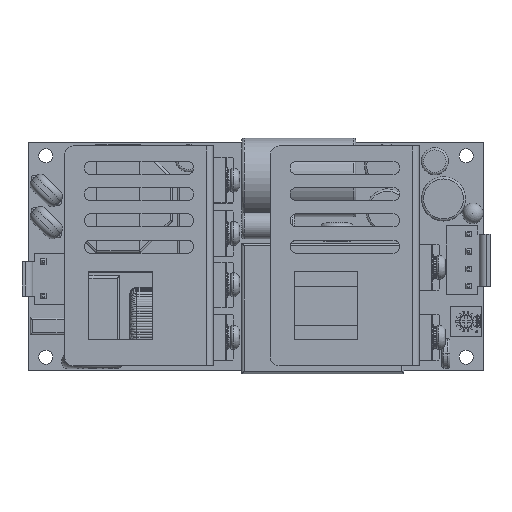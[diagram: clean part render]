
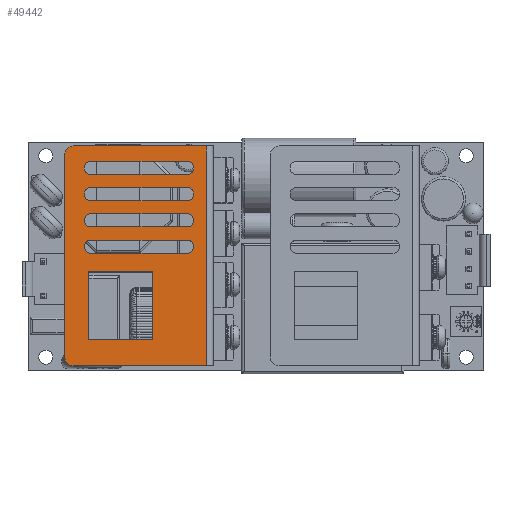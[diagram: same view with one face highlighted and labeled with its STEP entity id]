
A CAD part, top view. The second image highlights one B-rep face of the part: STEP entity #49442.
In plain terms, the highlighted planar face has unit normal (0, 0, 1) as drawn and (0, 1, 0) by its records, which use the part's own axes.
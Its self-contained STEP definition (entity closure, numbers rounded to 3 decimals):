
#2259=LINE($,#78601,#4504);
#2260=LINE($,#78605,#4505);
#2261=LINE($,#78609,#4506);
#2262=LINE($,#78613,#4507);
#2263=LINE($,#78617,#4508);
#2264=LINE($,#78621,#4509);
#2265=LINE($,#78625,#4510);
#2266=LINE($,#78629,#4511);
#2267=LINE($,#78633,#4512);
#2268=LINE($,#78635,#4513);
#2269=LINE($,#78637,#4514);
#2270=LINE($,#78638,#4515);
#2271=LINE($,#78640,#4516);
#2272=LINE($,#78644,#4517);
#2273=LINE($,#78646,#4518);
#2274=LINE($,#78647,#4519);
#4504=VECTOR($,#61422,22.);
#4505=VECTOR($,#61425,22.);
#4506=VECTOR($,#61428,22.);
#4507=VECTOR($,#61431,22.);
#4508=VECTOR($,#61434,22.);
#4509=VECTOR($,#61437,22.);
#4510=VECTOR($,#61440,22.);
#4511=VECTOR($,#61443,22.);
#4512=VECTOR($,#61446,14.5);
#4513=VECTOR($,#61447,15.7);
#4514=VECTOR($,#61448,14.5);
#4515=VECTOR($,#61449,15.7);
#4516=VECTOR($,#61450,46.2);
#4517=VECTOR($,#61453,30.4);
#4518=VECTOR($,#61454,50.2);
#4519=VECTOR($,#61455,30.4);
#6576=PLANE($,#53377);
#8670=FACE_BOUND($,#12825,.T.);
#8671=FACE_BOUND($,#12826,.T.);
#8672=FACE_BOUND($,#12827,.T.);
#8673=FACE_BOUND($,#12828,.T.);
#8674=FACE_BOUND($,#12829,.T.);
#8675=FACE_BOUND($,#12830,.T.);
#12825=EDGE_LOOP($,(#31851,#31852,#31853,#31854));
#12826=EDGE_LOOP($,(#31855,#31856,#31857,#31858));
#12827=EDGE_LOOP($,(#31859,#31860,#31861,#31862));
#12828=EDGE_LOOP($,(#31863,#31864,#31865,#31866));
#12829=EDGE_LOOP($,(#31867,#31868,#31869,#31870));
#12830=EDGE_LOOP($,(#31871,#31872,#31873,#31874,#31875,#31876));
#16639=CIRCLE($,#53376,2.);
#16640=CIRCLE($,#53378,1.5);
#16641=CIRCLE($,#53379,1.5);
#16642=CIRCLE($,#53380,1.5);
#16643=CIRCLE($,#53381,1.5);
#16644=CIRCLE($,#53382,1.5);
#16645=CIRCLE($,#53383,1.5);
#16646=CIRCLE($,#53384,1.5);
#16647=CIRCLE($,#53385,1.5);
#16648=CIRCLE($,#53386,2.);
#20313=VERTEX_POINT($,#78593);
#20314=VERTEX_POINT($,#78595);
#20315=VERTEX_POINT($,#78599);
#20316=VERTEX_POINT($,#78600);
#20317=VERTEX_POINT($,#78602);
#20318=VERTEX_POINT($,#78604);
#20319=VERTEX_POINT($,#78607);
#20320=VERTEX_POINT($,#78608);
#20321=VERTEX_POINT($,#78610);
#20322=VERTEX_POINT($,#78612);
#20323=VERTEX_POINT($,#78615);
#20324=VERTEX_POINT($,#78616);
#20325=VERTEX_POINT($,#78618);
#20326=VERTEX_POINT($,#78620);
#20327=VERTEX_POINT($,#78623);
#20328=VERTEX_POINT($,#78624);
#20329=VERTEX_POINT($,#78626);
#20330=VERTEX_POINT($,#78628);
#20331=VERTEX_POINT($,#78631);
#20332=VERTEX_POINT($,#78632);
#20333=VERTEX_POINT($,#78634);
#20334=VERTEX_POINT($,#78636);
#20335=VERTEX_POINT($,#78639);
#20336=VERTEX_POINT($,#78641);
#20337=VERTEX_POINT($,#78643);
#20338=VERTEX_POINT($,#78645);
#24157=EDGE_CURVE($,#20313,#20314,#16639,.T.);
#24159=EDGE_CURVE($,#20315,#20316,#2259,.T.);
#24160=EDGE_CURVE($,#20316,#20317,#16640,.T.);
#24161=EDGE_CURVE($,#20317,#20318,#2260,.T.);
#24162=EDGE_CURVE($,#20318,#20315,#16641,.T.);
#24163=EDGE_CURVE($,#20319,#20320,#2261,.T.);
#24164=EDGE_CURVE($,#20320,#20321,#16642,.T.);
#24165=EDGE_CURVE($,#20321,#20322,#2262,.T.);
#24166=EDGE_CURVE($,#20322,#20319,#16643,.T.);
#24167=EDGE_CURVE($,#20323,#20324,#2263,.T.);
#24168=EDGE_CURVE($,#20324,#20325,#16644,.T.);
#24169=EDGE_CURVE($,#20325,#20326,#2264,.T.);
#24170=EDGE_CURVE($,#20326,#20323,#16645,.T.);
#24171=EDGE_CURVE($,#20327,#20328,#2265,.T.);
#24172=EDGE_CURVE($,#20328,#20329,#16646,.T.);
#24173=EDGE_CURVE($,#20329,#20330,#2266,.T.);
#24174=EDGE_CURVE($,#20330,#20327,#16647,.T.);
#24175=EDGE_CURVE($,#20331,#20332,#2267,.T.);
#24176=EDGE_CURVE($,#20332,#20333,#2268,.T.);
#24177=EDGE_CURVE($,#20333,#20334,#2269,.T.);
#24178=EDGE_CURVE($,#20334,#20331,#2270,.T.);
#24179=EDGE_CURVE($,#20335,#20313,#2271,.T.);
#24180=EDGE_CURVE($,#20336,#20335,#16648,.T.);
#24181=EDGE_CURVE($,#20336,#20337,#2272,.T.);
#24182=EDGE_CURVE($,#20338,#20337,#2273,.T.);
#24183=EDGE_CURVE($,#20338,#20314,#2274,.T.);
#31851=ORIENTED_EDGE($,*,*,#24159,.T.);
#31852=ORIENTED_EDGE($,*,*,#24160,.T.);
#31853=ORIENTED_EDGE($,*,*,#24161,.T.);
#31854=ORIENTED_EDGE($,*,*,#24162,.T.);
#31855=ORIENTED_EDGE($,*,*,#24163,.T.);
#31856=ORIENTED_EDGE($,*,*,#24164,.T.);
#31857=ORIENTED_EDGE($,*,*,#24165,.T.);
#31858=ORIENTED_EDGE($,*,*,#24166,.T.);
#31859=ORIENTED_EDGE($,*,*,#24167,.T.);
#31860=ORIENTED_EDGE($,*,*,#24168,.T.);
#31861=ORIENTED_EDGE($,*,*,#24169,.T.);
#31862=ORIENTED_EDGE($,*,*,#24170,.T.);
#31863=ORIENTED_EDGE($,*,*,#24171,.T.);
#31864=ORIENTED_EDGE($,*,*,#24172,.T.);
#31865=ORIENTED_EDGE($,*,*,#24173,.T.);
#31866=ORIENTED_EDGE($,*,*,#24174,.T.);
#31867=ORIENTED_EDGE($,*,*,#24175,.T.);
#31868=ORIENTED_EDGE($,*,*,#24176,.T.);
#31869=ORIENTED_EDGE($,*,*,#24177,.T.);
#31870=ORIENTED_EDGE($,*,*,#24178,.T.);
#31871=ORIENTED_EDGE($,*,*,#24157,.F.);
#31872=ORIENTED_EDGE($,*,*,#24179,.F.);
#31873=ORIENTED_EDGE($,*,*,#24180,.F.);
#31874=ORIENTED_EDGE($,*,*,#24181,.T.);
#31875=ORIENTED_EDGE($,*,*,#24182,.F.);
#31876=ORIENTED_EDGE($,*,*,#24183,.T.);
#49442=ADVANCED_FACE($,(#8670,#8671,#8672,#8673,#8674,#8675),#6576,.T.);
#53376=AXIS2_PLACEMENT_3D($,#78596,#61417,#61418);
#53377=AXIS2_PLACEMENT_3D($,#78598,#61420,#61421);
#53378=AXIS2_PLACEMENT_3D($,#78603,#61423,#61424);
#53379=AXIS2_PLACEMENT_3D($,#78606,#61426,#61427);
#53380=AXIS2_PLACEMENT_3D($,#78611,#61429,#61430);
#53381=AXIS2_PLACEMENT_3D($,#78614,#61432,#61433);
#53382=AXIS2_PLACEMENT_3D($,#78619,#61435,#61436);
#53383=AXIS2_PLACEMENT_3D($,#78622,#61438,#61439);
#53384=AXIS2_PLACEMENT_3D($,#78627,#61441,#61442);
#53385=AXIS2_PLACEMENT_3D($,#78630,#61444,#61445);
#53386=AXIS2_PLACEMENT_3D($,#78642,#61451,#61452);
#61417=DIRECTION('center_axis',(0.,-1.,0.));
#61418=DIRECTION('ref_axis',(0.707,0.,-0.707));
#61420=DIRECTION('center_axis',(0.,1.,0.));
#61421=DIRECTION('ref_axis',(0.,0.,1.));
#61422=DIRECTION($,(0.,0.,-1.));
#61423=DIRECTION('center_axis',(0.,-1.,0.));
#61424=DIRECTION('ref_axis',(1.,0.,0.));
#61425=DIRECTION($,(0.,0.,1.));
#61426=DIRECTION('center_axis',(0.,-1.,0.));
#61427=DIRECTION('ref_axis',(-1.,0.,0.));
#61428=DIRECTION($,(0.,0.,-1.));
#61429=DIRECTION('center_axis',(0.,-1.,0.));
#61430=DIRECTION('ref_axis',(1.,0.,0.));
#61431=DIRECTION($,(0.,0.,1.));
#61432=DIRECTION('center_axis',(0.,-1.,0.));
#61433=DIRECTION('ref_axis',(-1.,0.,0.));
#61434=DIRECTION($,(0.,0.,-1.));
#61435=DIRECTION('center_axis',(0.,-1.,0.));
#61436=DIRECTION('ref_axis',(1.,0.,0.));
#61437=DIRECTION($,(0.,0.,1.));
#61438=DIRECTION('center_axis',(0.,-1.,0.));
#61439=DIRECTION('ref_axis',(-1.,0.,0.));
#61440=DIRECTION($,(0.,0.,-1.));
#61441=DIRECTION('center_axis',(0.,-1.,0.));
#61442=DIRECTION('ref_axis',(1.,0.,0.));
#61443=DIRECTION($,(0.,0.,1.));
#61444=DIRECTION('center_axis',(0.,-1.,0.));
#61445=DIRECTION('ref_axis',(-1.,0.,0.));
#61446=DIRECTION($,(0.,0.,-1.));
#61447=DIRECTION($,(1.,0.,0.));
#61448=DIRECTION($,(0.,0.,1.));
#61449=DIRECTION($,(-1.,0.,0.));
#61450=DIRECTION($,(1.,0.,0.));
#61451=DIRECTION('center_axis',(0.,-1.,0.));
#61452=DIRECTION('ref_axis',(-0.707,0.,-0.707));
#61453=DIRECTION($,(0.,0.,1.));
#61454=DIRECTION($,(-1.,0.,0.));
#61455=DIRECTION($,(0.,0.,-1.));
#78593=CARTESIAN_POINT('',(48.2,20.5,-34.));
#78595=CARTESIAN_POINT('',(50.2,20.5,-32.));
#78596=CARTESIAN_POINT('Origin',(48.2,20.5,-32.));
#78598=CARTESIAN_POINT('Origin',(0.,20.5,0.));
#78599=CARTESIAN_POINT('',(25.7,20.5,-6.));
#78600=CARTESIAN_POINT('',(25.7,20.5,-28.));
#78601=CARTESIAN_POINT($,(25.7,20.5,-14.));
#78602=CARTESIAN_POINT('',(28.7,20.5,-28.));
#78603=CARTESIAN_POINT('Origin',(27.2,20.5,-28.));
#78604=CARTESIAN_POINT('',(28.7,20.5,-6.));
#78605=CARTESIAN_POINT($,(28.7,20.5,-3.));
#78606=CARTESIAN_POINT('Origin',(27.2,20.5,-6.));
#78607=CARTESIAN_POINT('',(31.7,20.5,-6.));
#78608=CARTESIAN_POINT('',(31.7,20.5,-28.));
#78609=CARTESIAN_POINT($,(31.7,20.5,-14.));
#78610=CARTESIAN_POINT('',(34.7,20.5,-28.));
#78611=CARTESIAN_POINT('Origin',(33.2,20.5,-28.));
#78612=CARTESIAN_POINT('',(34.7,20.5,-6.));
#78613=CARTESIAN_POINT($,(34.7,20.5,-3.));
#78614=CARTESIAN_POINT('Origin',(33.2,20.5,-6.));
#78615=CARTESIAN_POINT('',(37.7,20.5,-6.));
#78616=CARTESIAN_POINT('',(37.7,20.5,-28.));
#78617=CARTESIAN_POINT($,(37.7,20.5,-14.));
#78618=CARTESIAN_POINT('',(40.7,20.5,-28.));
#78619=CARTESIAN_POINT('Origin',(39.2,20.5,-28.));
#78620=CARTESIAN_POINT('',(40.7,20.5,-6.));
#78621=CARTESIAN_POINT($,(40.7,20.5,-3.));
#78622=CARTESIAN_POINT('Origin',(39.2,20.5,-6.));
#78623=CARTESIAN_POINT('',(43.7,20.5,-6.));
#78624=CARTESIAN_POINT('',(43.7,20.5,-28.));
#78625=CARTESIAN_POINT($,(43.7,20.5,-14.));
#78626=CARTESIAN_POINT('',(46.7,20.5,-28.));
#78627=CARTESIAN_POINT('Origin',(45.2,20.5,-28.));
#78628=CARTESIAN_POINT('',(46.7,20.5,-6.));
#78629=CARTESIAN_POINT($,(46.7,20.5,-3.));
#78630=CARTESIAN_POINT('Origin',(45.2,20.5,-6.));
#78631=CARTESIAN_POINT('',(5.9,20.5,-14.));
#78632=CARTESIAN_POINT('',(5.9,20.5,-28.5));
#78633=CARTESIAN_POINT($,(5.9,20.5,-14.25));
#78634=CARTESIAN_POINT('',(21.6,20.5,-28.5));
#78635=CARTESIAN_POINT($,(10.8,20.5,-28.5));
#78636=CARTESIAN_POINT('',(21.6,20.5,-14.));
#78637=CARTESIAN_POINT($,(21.6,20.5,-7.));
#78638=CARTESIAN_POINT($,(2.95,20.5,-14.));
#78639=CARTESIAN_POINT('',(2.,20.5,-34.));
#78640=CARTESIAN_POINT($,(0.,20.5,-34.));
#78641=CARTESIAN_POINT('',(0.,20.5,-32.));
#78642=CARTESIAN_POINT('Origin',(2.,20.5,-32.));
#78643=CARTESIAN_POINT('',(0.,20.5,-1.6));
#78644=CARTESIAN_POINT($,(0.,20.5,-34.));
#78645=CARTESIAN_POINT('',(50.2,20.5,-1.6));
#78646=CARTESIAN_POINT($,(0.,20.5,-1.6));
#78647=CARTESIAN_POINT($,(50.2,20.5,-34.));
